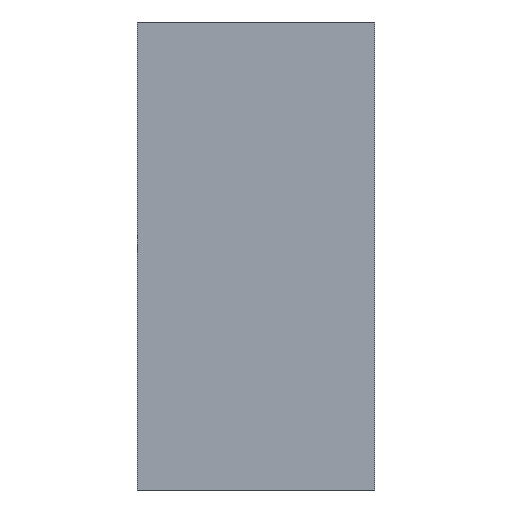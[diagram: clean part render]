
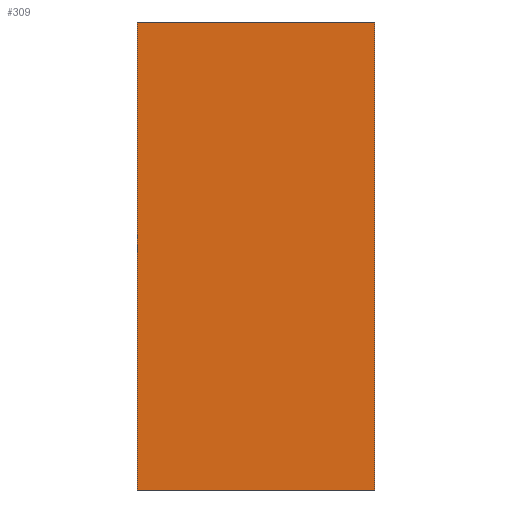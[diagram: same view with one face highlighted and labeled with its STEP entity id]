
A CAD part, front view. The second image highlights one B-rep face of the part: STEP entity #309.
In plain terms, the highlighted planar face has unit normal (0, -1, 0).
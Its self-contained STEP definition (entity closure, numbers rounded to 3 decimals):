
#21 = EDGE_CURVE('',#22,#24,#26,.T.);
#22 = VERTEX_POINT('',#23);
#23 = CARTESIAN_POINT('',(0.,0.,0.));
#24 = VERTEX_POINT('',#25);
#25 = CARTESIAN_POINT('',(0.,0.,5.9));
#26 = SURFACE_CURVE('',#27,(#31,#43),.PCURVE_S1.);
#27 = LINE('',#28,#29);
#28 = CARTESIAN_POINT('',(0.,0.,-26.6));
#29 = VECTOR('',#30,1.);
#30 = DIRECTION('',(0.,0.,1.));
#31 = PCURVE('',#32,#37);
#32 = PLANE('',#33);
#33 = AXIS2_PLACEMENT_3D('',#34,#35,#36);
#34 = CARTESIAN_POINT('',(0.,0.,-26.6));
#35 = DIRECTION('',(1.,0.,-0.));
#36 = DIRECTION('',(0.,0.,1.));
#37 = DEFINITIONAL_REPRESENTATION('',(#38),#42);
#38 = LINE('',#39,#40);
#39 = CARTESIAN_POINT('',(0.,0.));
#40 = VECTOR('',#41,1.);
#41 = DIRECTION('',(1.,0.));
#42 = ( GEOMETRIC_REPRESENTATION_CONTEXT(2) 
PARAMETRIC_REPRESENTATION_CONTEXT() REPRESENTATION_CONTEXT('2D SPACE',''
  ) );
#43 = PCURVE('',#44,#49);
#44 = PLANE('',#45);
#45 = AXIS2_PLACEMENT_3D('',#46,#47,#48);
#46 = CARTESIAN_POINT('',(0.,0.,-26.6));
#47 = DIRECTION('',(-0.,1.,0.));
#48 = DIRECTION('',(0.,0.,1.));
#49 = DEFINITIONAL_REPRESENTATION('',(#50),#54);
#50 = LINE('',#51,#52);
#51 = CARTESIAN_POINT('',(0.,0.));
#52 = VECTOR('',#53,1.);
#53 = DIRECTION('',(1.,0.));
#54 = ( GEOMETRIC_REPRESENTATION_CONTEXT(2) 
PARAMETRIC_REPRESENTATION_CONTEXT() REPRESENTATION_CONTEXT('2D SPACE',''
  ) );
#72 = PLANE('',#73);
#73 = AXIS2_PLACEMENT_3D('',#74,#75,#76);
#74 = CARTESIAN_POINT('',(-2.,-1.,0.));
#75 = DIRECTION('',(0.,0.,1.));
#76 = DIRECTION('',(1.,0.,-0.));
#298 = PLANE('',#299);
#299 = AXIS2_PLACEMENT_3D('',#300,#301,#302);
#300 = CARTESIAN_POINT('',(0.,0.,5.9));
#301 = DIRECTION('',(0.,0.,1.));
#302 = DIRECTION('',(1.,0.,-0.));
#309 = ADVANCED_FACE('',(#310),#44,.F.);
#310 = FACE_BOUND('',#311,.F.);
#311 = EDGE_LOOP('',(#312,#342,#363,#364));
#312 = ORIENTED_EDGE('',*,*,#313,.F.);
#313 = EDGE_CURVE('',#314,#316,#318,.T.);
#314 = VERTEX_POINT('',#315);
#315 = CARTESIAN_POINT('',(3.,0.,0.));
#316 = VERTEX_POINT('',#317);
#317 = CARTESIAN_POINT('',(3.,0.,5.9));
#318 = SURFACE_CURVE('',#319,(#323,#330),.PCURVE_S1.);
#319 = LINE('',#320,#321);
#320 = CARTESIAN_POINT('',(3.,0.,-26.6));
#321 = VECTOR('',#322,1.);
#322 = DIRECTION('',(0.,0.,1.));
#323 = PCURVE('',#44,#324);
#324 = DEFINITIONAL_REPRESENTATION('',(#325),#329);
#325 = LINE('',#326,#327);
#326 = CARTESIAN_POINT('',(0.,3.));
#327 = VECTOR('',#328,1.);
#328 = DIRECTION('',(1.,0.));
#329 = ( GEOMETRIC_REPRESENTATION_CONTEXT(2) 
PARAMETRIC_REPRESENTATION_CONTEXT() REPRESENTATION_CONTEXT('2D SPACE',''
  ) );
#330 = PCURVE('',#331,#336);
#331 = PLANE('',#332);
#332 = AXIS2_PLACEMENT_3D('',#333,#334,#335);
#333 = CARTESIAN_POINT('',(3.,0.,-26.6));
#334 = DIRECTION('',(1.,0.,-0.));
#335 = DIRECTION('',(0.,0.,1.));
#336 = DEFINITIONAL_REPRESENTATION('',(#337),#341);
#337 = LINE('',#338,#339);
#338 = CARTESIAN_POINT('',(0.,0.));
#339 = VECTOR('',#340,1.);
#340 = DIRECTION('',(1.,0.));
#341 = ( GEOMETRIC_REPRESENTATION_CONTEXT(2) 
PARAMETRIC_REPRESENTATION_CONTEXT() REPRESENTATION_CONTEXT('2D SPACE',''
  ) );
#342 = ORIENTED_EDGE('',*,*,#343,.F.);
#343 = EDGE_CURVE('',#22,#314,#344,.T.);
#344 = SURFACE_CURVE('',#345,(#349,#356),.PCURVE_S1.);
#345 = LINE('',#346,#347);
#346 = CARTESIAN_POINT('',(-1.,0.,0.));
#347 = VECTOR('',#348,1.);
#348 = DIRECTION('',(1.,0.,-0.));
#349 = PCURVE('',#44,#350);
#350 = DEFINITIONAL_REPRESENTATION('',(#351),#355);
#351 = LINE('',#352,#353);
#352 = CARTESIAN_POINT('',(26.6,-1.));
#353 = VECTOR('',#354,1.);
#354 = DIRECTION('',(0.,1.));
#355 = ( GEOMETRIC_REPRESENTATION_CONTEXT(2) 
PARAMETRIC_REPRESENTATION_CONTEXT() REPRESENTATION_CONTEXT('2D SPACE',''
  ) );
#356 = PCURVE('',#72,#357);
#357 = DEFINITIONAL_REPRESENTATION('',(#358),#362);
#358 = LINE('',#359,#360);
#359 = CARTESIAN_POINT('',(1.,1.));
#360 = VECTOR('',#361,1.);
#361 = DIRECTION('',(1.,0.));
#362 = ( GEOMETRIC_REPRESENTATION_CONTEXT(2) 
PARAMETRIC_REPRESENTATION_CONTEXT() REPRESENTATION_CONTEXT('2D SPACE',''
  ) );
#363 = ORIENTED_EDGE('',*,*,#21,.T.);
#364 = ORIENTED_EDGE('',*,*,#365,.T.);
#365 = EDGE_CURVE('',#24,#316,#366,.T.);
#366 = SURFACE_CURVE('',#367,(#371,#378),.PCURVE_S1.);
#367 = LINE('',#368,#369);
#368 = CARTESIAN_POINT('',(0.,0.,5.9));
#369 = VECTOR('',#370,1.);
#370 = DIRECTION('',(1.,0.,-0.));
#371 = PCURVE('',#44,#372);
#372 = DEFINITIONAL_REPRESENTATION('',(#373),#377);
#373 = LINE('',#374,#375);
#374 = CARTESIAN_POINT('',(32.5,0.));
#375 = VECTOR('',#376,1.);
#376 = DIRECTION('',(0.,1.));
#377 = ( GEOMETRIC_REPRESENTATION_CONTEXT(2) 
PARAMETRIC_REPRESENTATION_CONTEXT() REPRESENTATION_CONTEXT('2D SPACE',''
  ) );
#378 = PCURVE('',#298,#379);
#379 = DEFINITIONAL_REPRESENTATION('',(#380),#384);
#380 = LINE('',#381,#382);
#381 = CARTESIAN_POINT('',(0.,0.));
#382 = VECTOR('',#383,1.);
#383 = DIRECTION('',(1.,0.));
#384 = ( GEOMETRIC_REPRESENTATION_CONTEXT(2) 
PARAMETRIC_REPRESENTATION_CONTEXT() REPRESENTATION_CONTEXT('2D SPACE',''
  ) );
